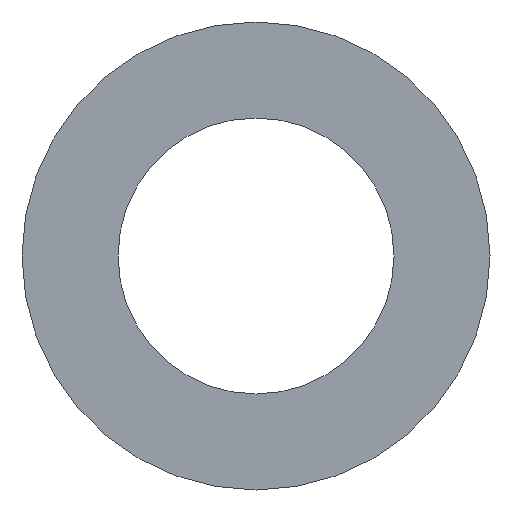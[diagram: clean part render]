
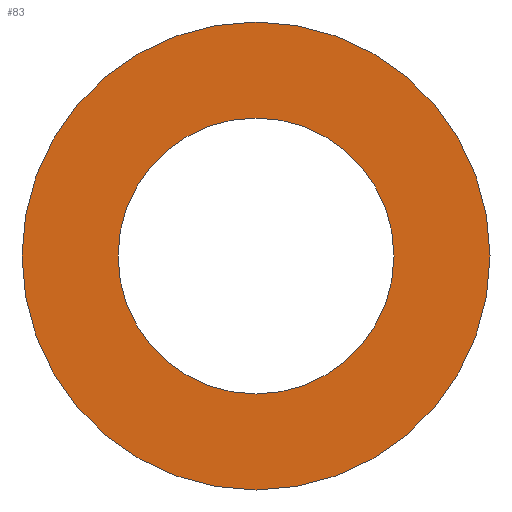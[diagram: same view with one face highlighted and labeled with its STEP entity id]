
A CAD part, front view. The second image highlights one B-rep face of the part: STEP entity #83.
In plain terms, the highlighted planar face has unit normal (0, -1, 0).
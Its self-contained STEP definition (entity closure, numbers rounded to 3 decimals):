
#3 = CARTESIAN_POINT ( 'NONE',  ( 0., -3., 0. ) ) ;
#7 = EDGE_CURVE ( 'NONE', #172, #62, #99, .T. ) ;
#9 = DIRECTION ( 'NONE',  ( 0., 1., 0. ) ) ;
#37 = EDGE_CURVE ( 'NONE', #210, #54, #78, .T. ) ;
#41 = EDGE_CURVE ( 'NONE', #62, #172, #70, .T. ) ;
#47 = CIRCLE ( 'NONE', #232, 19.5 ) ;
#48 = CARTESIAN_POINT ( 'NONE',  ( 0., -3., -11.5 ) ) ;
#49 = EDGE_LOOP ( 'NONE', ( #97, #65 ) ) ;
#52 = EDGE_CURVE ( 'NONE', #54, #210, #47, .T. ) ;
#54 = VERTEX_POINT ( 'NONE', #207 ) ;
#57 = EDGE_LOOP ( 'NONE', ( #175, #145 ) ) ;
#59 = AXIS2_PLACEMENT_3D ( 'NONE', #3, #9, #93 ) ;
#62 = VERTEX_POINT ( 'NONE', #159 ) ;
#65 = ORIENTED_EDGE ( 'NONE', *, *, #52, .F. ) ;
#70 = CIRCLE ( 'NONE', #91, 11.5 ) ;
#74 = AXIS2_PLACEMENT_3D ( 'NONE', #95, #240, #111 ) ;
#78 = CIRCLE ( 'NONE', #74, 19.5 ) ;
#80 = DIRECTION ( 'NONE',  ( 0., 1., 0. ) ) ;
#83 = ADVANCED_FACE ( 'NONE', ( #216, #205 ), #217, .T. ) ;
#91 = AXIS2_PLACEMENT_3D ( 'NONE', #154, #151, #129 ) ;
#93 = DIRECTION ( 'NONE',  ( 0., 0., 1. ) ) ;
#94 = DIRECTION ( 'NONE',  ( 0., 0., -1. ) ) ;
#95 = CARTESIAN_POINT ( 'NONE',  ( 0., -3., 0. ) ) ;
#97 = ORIENTED_EDGE ( 'NONE', *, *, #37, .F. ) ;
#99 = CIRCLE ( 'NONE', #59, 11.5 ) ;
#111 = DIRECTION ( 'NONE',  ( 0., 0., 1. ) ) ;
#129 = DIRECTION ( 'NONE',  ( 0., 0., 1. ) ) ;
#134 = CARTESIAN_POINT ( 'NONE',  ( 0., -3., 19.5 ) ) ;
#145 = ORIENTED_EDGE ( 'NONE', *, *, #7, .T. ) ;
#151 = DIRECTION ( 'NONE',  ( 0., 1., 0. ) ) ;
#154 = CARTESIAN_POINT ( 'NONE',  ( 0., -3., 0. ) ) ;
#159 = CARTESIAN_POINT ( 'NONE',  ( 0., -3., 11.5 ) ) ;
#172 = VERTEX_POINT ( 'NONE', #48 ) ;
#175 = ORIENTED_EDGE ( 'NONE', *, *, #41, .T. ) ;
#180 = CARTESIAN_POINT ( 'NONE',  ( 0., -3., 0. ) ) ;
#183 = CARTESIAN_POINT ( 'NONE',  ( 0., -3., 19.5 ) ) ;
#205 = FACE_OUTER_BOUND ( 'NONE', #49, .T. ) ;
#207 = CARTESIAN_POINT ( 'NONE',  ( 0., -3., -19.5 ) ) ;
#210 = VERTEX_POINT ( 'NONE', #183 ) ;
#213 = DIRECTION ( 'NONE',  ( 0., 0., 1. ) ) ;
#216 = FACE_BOUND ( 'NONE', #57, .T. ) ;
#217 = PLANE ( 'NONE',  #246 ) ;
#232 = AXIS2_PLACEMENT_3D ( 'NONE', #180, #80, #213 ) ;
#237 = DIRECTION ( 'NONE',  ( 0., -1., 0. ) ) ;
#240 = DIRECTION ( 'NONE',  ( 0., 1., 0. ) ) ;
#246 = AXIS2_PLACEMENT_3D ( 'NONE', #134, #237, #94 ) ;
